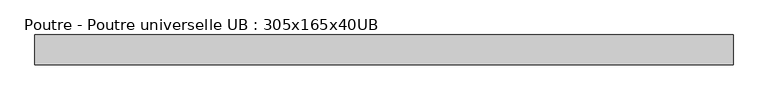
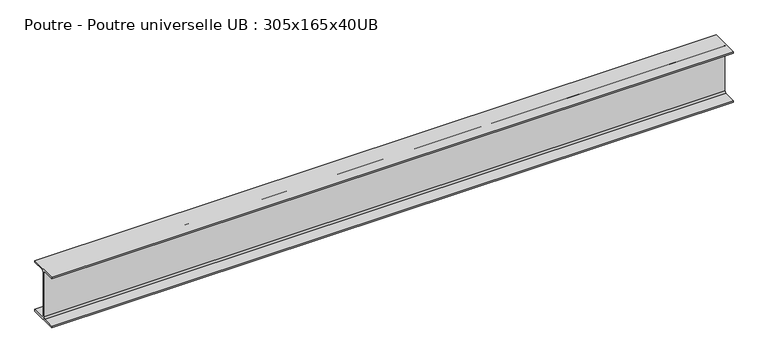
"""IFC4 building model written with IfcOpenShell, lengths in millimetres: beam geometry, Poutre - Poutre universelle UB : 305x165x40UB."""

from ifc_helpers import new_model, si_unit, point, frame, frame_2d, origin, place, context, project, spatial, polyline, circle_curve, trimmed, segment, composite_curve, outline, extrude, source, transform, mapped, element, save


def poutre_poutre_universelle_ub_305x165x40ub_a9a24711(model_context):
    return source(origin(), model_context, "Body", "SweptSolid", [
        extrude(outline(composite_curve([segment(polyline([(82.5, -141.5), (82.5, -151.7), (-82.5, -151.7), (-82.5, -141.5), (-11.9, -141.5)]), True, "CONTINUOUS"), segment(trimmed(circle_curve(frame_2d((-11.9, -132.6)), 8.9), [point((-11.9, -141.5))], [point((-3.0, -132.6))], True, "CARTESIAN"), True, "CONTINUOUS"), segment(polyline([(-3.0, -132.6), (-3.0, 132.6)]), True, "CONTINUOUS"), segment(trimmed(circle_curve(frame_2d((-11.9, 132.6)), 8.9), [point((-3.0, 132.6))], [point((-11.9, 141.5))], True, "CARTESIAN"), True, "CONTINUOUS"), segment(polyline([(-11.9, 141.5), (-82.5, 141.5), (-82.5, 151.7), (82.5, 151.7), (82.5, 141.5), (11.9, 141.5)]), True, "CONTINUOUS"), segment(trimmed(circle_curve(frame_2d((11.9, 132.6)), 8.9), [point((11.9, 141.5))], [point((3.0, 132.6))], True, "CARTESIAN"), True, "CONTINUOUS"), segment(polyline([(3.0, 132.6), (3.0, -132.6)]), True, "CONTINUOUS"), segment(trimmed(circle_curve(frame_2d((11.9, -132.6)), 8.9), [point((3.0, -132.6))], [point((11.9, -141.5))], True, "CARTESIAN"), True, "CONTINUOUS"), segment(polyline([(11.9, -141.5), (82.5, -141.5)]), True, "CONTINUOUS")], self_intersect=False)), frame((-1917.0, 0.0, 0.0), z_axis=(1.0, 0.0, 0.0), x_axis=(0.0, 1.0, 0.0)), (0.0, 0.0, 1.0), 3864.0),
    ])


if __name__ == "__main__":
    model = new_model("IFC4")
    model_context = context("Model", 3, world=origin())
    ifc_project = project(units=[si_unit("LENGTHUNIT", "METRE", prefix="MILLI")], contexts=[model_context])
    site = spatial("IfcSite", under=ifc_project)
    building = spatial("IfcBuilding", under=site)
    placement = place(None, origin())
    poutre_poutre_universelle_ub_305x165x40ub_shape = poutre_poutre_universelle_ub_305x165x40ub_a9a24711(model_context)
    element("IfcBeam", 1, ObjectType="Poutre - Poutre universelle UB : 305x165x40UB", at=placement, inside=building, context=model_context, shape_type="MappedRepresentation", body=[
        mapped(poutre_poutre_universelle_ub_305x165x40ub_shape, transform((0.0, 0.0, 0.0), x_axis=(1.0, 0.0, 0.0), y_axis=(0.0, 1.0, 0.0), z_axis=(0.0, 0.0, 1.0))),
    ])
    save(model, "model.ifc")
